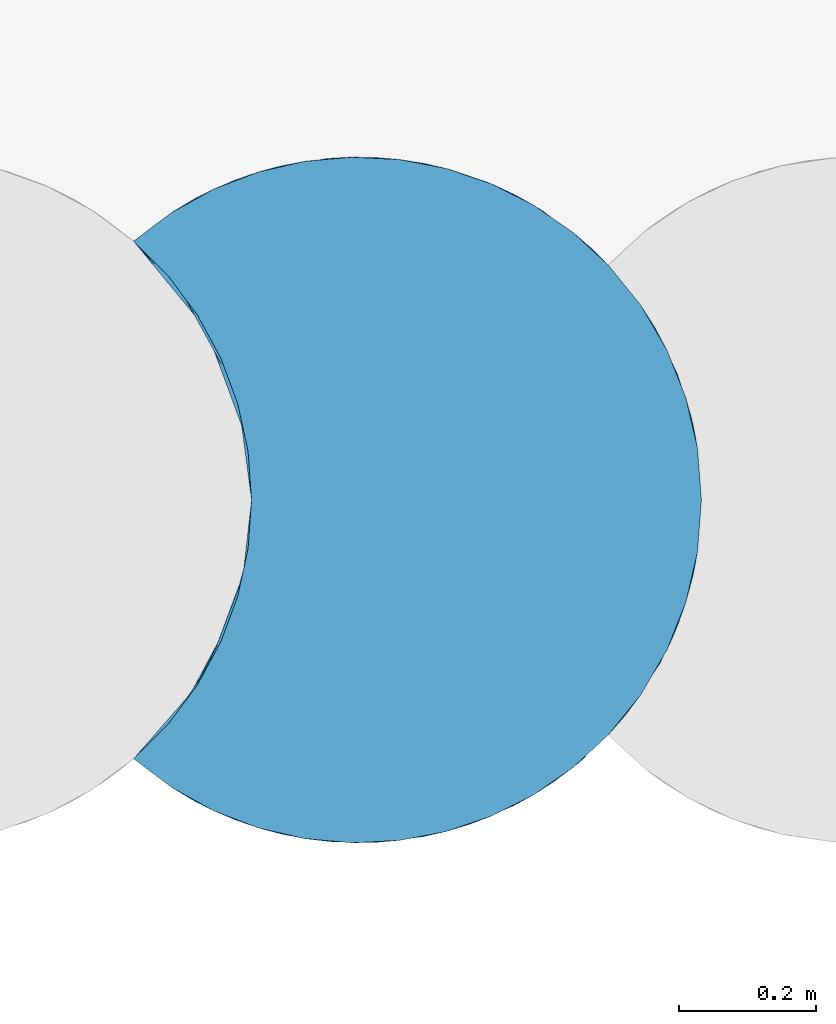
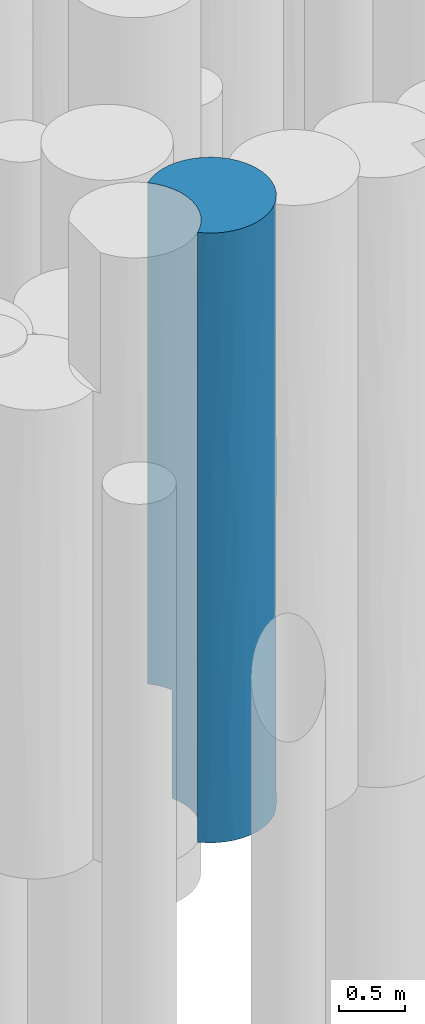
# One storey, part 37 of 104: 1 pile.
"""IFC2X3 building model written with IfcOpenShell, lengths in millimetres."""

from ifc_helpers import new_model, entity, si_unit, converted_unit, derived_unit, direction, frame, origin, place, context, subcontext, project, spatial, faceted_brep, source, transform, mapped, material, element, save


model = new_model("IFC2X3")

# Units and contexts
model_context = context("Model", 3, precision=0.01, world=origin(), true_north=direction((6.12303176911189e-17, 1.0)))
body_context = subcontext(model_context, "Body", "Model", "MODEL_VIEW")
ifc_project = project(units=[si_unit("LENGTHUNIT", "METRE", prefix="MILLI"), si_unit("AREAUNIT", "SQUARE_METRE", prefix="MILLI"), si_unit("VOLUMEUNIT", "CUBIC_METRE"), converted_unit("PLANEANGLEUNIT", "DEGREE", entity("IfcRatioMeasure", 0.0174532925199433), si_unit("PLANEANGLEUNIT", "RADIAN"), dimensions=[0, 0, 0, 0, 0, 0, 0]), si_unit("MASSUNIT", "GRAM", prefix="KILO"), derived_unit("MASSDENSITYUNIT", [(si_unit("MASSUNIT", "GRAM", prefix="KILO"), 1), (si_unit("LENGTHUNIT", "METRE"), -3)]), derived_unit("MOMENTOFINERTIAUNIT", [(si_unit("LENGTHUNIT", "METRE"), 4)]), si_unit("TIMEUNIT", "SECOND"), si_unit("FREQUENCYUNIT", "HERTZ"), si_unit("THERMODYNAMICTEMPERATUREUNIT", "DEGREE_CELSIUS"), derived_unit("THERMALTRANSMITTANCEUNIT", [(si_unit("MASSUNIT", "GRAM", prefix="KILO"), 1), (si_unit("THERMODYNAMICTEMPERATUREUNIT", "KELVIN"), -1), (si_unit("TIMEUNIT", "SECOND"), -3)]), derived_unit("VOLUMETRICFLOWRATEUNIT", [(si_unit("LENGTHUNIT", "METRE"), 3), (si_unit("TIMEUNIT", "SECOND"), -1)]), si_unit("ELECTRICCURRENTUNIT", "AMPERE"), si_unit("ELECTRICVOLTAGEUNIT", "VOLT"), si_unit("POWERUNIT", "WATT"), si_unit("FORCEUNIT", "NEWTON", prefix="KILO"), si_unit("ILLUMINANCEUNIT", "LUX"), si_unit("LUMINOUSFLUXUNIT", "LUMEN"), si_unit("LUMINOUSINTENSITYUNIT", "CANDELA"), derived_unit("USERDEFINED", [(si_unit("MASSUNIT", "GRAM", prefix="KILO"), -1), (si_unit("LENGTHUNIT", "METRE"), -2), (si_unit("TIMEUNIT", "SECOND"), 3), (si_unit("LUMINOUSFLUXUNIT", "LUMEN"), 1)]), derived_unit("LINEARVELOCITYUNIT", [(si_unit("LENGTHUNIT", "METRE"), 1), (si_unit("TIMEUNIT", "SECOND"), -1)]), si_unit("PRESSUREUNIT", "PASCAL"), derived_unit("USERDEFINED", [(si_unit("LENGTHUNIT", "METRE"), -2), (si_unit("MASSUNIT", "GRAM", prefix="KILO"), 1), (si_unit("TIMEUNIT", "SECOND"), -2)]), derived_unit("LINEARFORCEUNIT", [(si_unit("MASSUNIT", "GRAM", prefix="KILO"), 1), (si_unit("LENGTHUNIT", "METRE"), 1), (si_unit("TIMEUNIT", "SECOND"), -2), (si_unit("LENGTHUNIT", "METRE"), -1)]), derived_unit("PLANARFORCEUNIT", [(si_unit("MASSUNIT", "GRAM", prefix="KILO"), 1), (si_unit("LENGTHUNIT", "METRE"), 1), (si_unit("TIMEUNIT", "SECOND"), -2), (si_unit("LENGTHUNIT", "METRE"), -2)])], contexts=[model_context])

# Site, building, storey
site_placement = place(None, origin())
site = spatial("IfcSite", under=ifc_project, at=site_placement, Name="Theater aan de Parade", CompositionType="ELEMENT")
building_placement = place(site_placement, origin())
building = spatial("IfcBuilding", under=site, at=building_placement, Name="Theater aan de Parade", CompositionType="ELEMENT")
storey_placement = place(building_placement, frame((0.0, 0.0, -5520.0)))
storey = spatial("IfcBuildingStorey", under=building, at=storey_placement, Name="-2 kelder", CompositionType="ELEMENT", Elevation=-5520.0)

# Pile
ifc_material = material(Name="00_PBT_MAT_grout")
shared_shape = source(origin(), body_context, "Body", "Brep", [
    faceted_brep([(806.888589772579, 650.465415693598, 0.0), (823.885877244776, 576.843205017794, 0.0), (829.595272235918, 501.49867767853, 0.0), (823.898974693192, 426.240125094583, 0.0), (806.940390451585, 352.698011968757, 0.0), (779.106066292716, 282.546523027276, 0.0), (741.030547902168, 217.384239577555, 0.0), (693.577578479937, 158.691588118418, 0.0), (642.501100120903, 111.511571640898, 0.0), (585.372966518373, 71.8735258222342, 0.0), (523.30217644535, 40.5457134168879, 0.0), (457.48861144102, 18.1320530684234, 0.0), (389.203996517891, 5.06459344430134, 0.0), (319.76749390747, 1.5952722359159, 0.0), (250.5203997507, 7.79110781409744, 0.0), (182.800421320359, 23.5329134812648, 0.0), (117.915971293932, 48.5175814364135, 0.0), (57.1240253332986, 82.2619669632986, 0.0), (1.59527223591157, 124.11823303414, 0.0), (51.8813547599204, 174.543574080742, 0.0), (94.4936693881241, 231.601402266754, 0.0), (128.567798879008, 294.134264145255, 0.0), (153.412528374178, 360.873641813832, 0.0), (168.523867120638, 430.465685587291, 0.0), (173.595272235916, 501.498677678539, 0.0), (170.37816950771, 558.126877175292, 0.0), (160.777664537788, 613.985639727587, 0.0), (144.914978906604, 668.405040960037, 0.0), (122.991728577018, 720.685413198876, 0.0), (778.99172857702, 720.685413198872, 0.0), (778.991728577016, 720.685413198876, 1000.0), (816.80925799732, 613.848720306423, 4566.14867845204), (829.595272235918, 501.498677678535, 5620.0), (829.595272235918, 501.498677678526, 4215.0), (829.595272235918, 501.498677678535, 4058.46227496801), (829.595272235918, 501.498677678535, 1561.53772503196), (814.10559975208, 624.988525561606, 2185.76883565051), (829.595272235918, 501.498677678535, 2810.0), (216.386464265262, 988.51383739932, 3690.72035170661), (316.504141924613, 1001.32727060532, 3348.95730957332), (285.048117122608, 999.510274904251, 2402.35619771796), (761.202892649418, 753.916707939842, 2417.72723235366), (821.511840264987, 591.042466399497, 3683.42124285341), (668.875813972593, 868.770666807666, 2132.86450050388), (693.595272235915, 844.287242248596, 1000.0), (642.513575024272, 891.475774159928, 1000.0), (319.780077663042, 1001.40233035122, 1000.0), (423.587323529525, 992.584713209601, 2132.87573286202), (740.961212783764, 785.71349600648, 1000.0), (585.38624846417, 931.115921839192, 1000.0), (554.896319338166, 947.861129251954, 2486.80900500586), (523.31590086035, 962.445874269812, 1000.0), (457.502381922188, 984.861658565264, 1000.0), (779.106066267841, 720.450832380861, 5620.0), (761.299527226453, 753.751400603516, 4566.14959788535), (741.030547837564, 785.613115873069, 5620.0), (523.302175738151, 962.451642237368, 5620.0), (554.882773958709, 947.867966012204, 4133.26135020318), (462.300574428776, 983.566414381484, 4596.8426305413), (668.864685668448, 868.780946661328, 4487.1272982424), (741.040032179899, 785.599380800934, 3576.82735566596), (794.348730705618, 685.901017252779, 3700.57090034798), (57.12402508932, 920.735388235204, 5620.0), (1.5952722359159, 878.879122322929, 4058.44853976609), (1.5952722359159, 878.879122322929, 4123.07562193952), (1.5952722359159, 878.879122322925, 5620.0), (823.898974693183, 576.757230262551, 5620.0), (806.940390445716, 650.299343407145, 5620.0), (817.938948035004, 608.832056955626, 1100.92237056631), (517.81367028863, 964.719828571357, 3310.00347986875), (423.587323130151, 992.584713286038, 3309.99094458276), (642.501099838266, 891.48578394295, 5620.0), (693.585464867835, 844.297656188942, 5620.0), (149.923382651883, 968.101305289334, 4575.90129397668), (251.666473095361, 995.388444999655, 4602.83628719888), (354.546116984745, 1000.87574497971, 4398.60332347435), (585.372965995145, 931.123829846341, 5620.0), (668.875813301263, 868.770667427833, 3309.99090313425), (389.217390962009, 997.931153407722, 1000.0), (1.59527223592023, 878.879122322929, 2496.91054919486), (86.9393783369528, 938.669258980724, 2009.21138453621), (1.5952722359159, 878.879122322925, 1000.0), (182.810137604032, 979.467425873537, 1000.0), (209.186994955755, 986.784002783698, 1857.08712870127), (250.531745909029, 995.208064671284, 1000.0), (96.5429972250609, 943.863501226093, 3513.07262957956), (169.508319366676, 975.178070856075, 2665.47601767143), (117.923781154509, 954.483423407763, 1000.0), (182.800421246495, 979.464441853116, 5620.0), (117.915971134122, 954.479773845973, 5620.0), (597.672478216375, 923.558639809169, 3430.90077066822), (389.203995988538, 997.932761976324, 5620.0), (457.488610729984, 984.865302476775, 5620.0), (319.767493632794, 1001.40208311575, 5620.0), (250.52039965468, 995.206247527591, 5620.0), (1.59527223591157, 878.879122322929, 2561.53851753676), (57.1295478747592, 920.738977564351, 1000.0), (829.595272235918, 501.49867767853, 1405.0), (216.386464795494, 14.4835178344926, 957.972406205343), (821.841251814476, 413.783823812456, 1876.21790916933), (805.369826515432, 347.750267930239, 2810.0), (786.755300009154, 299.002482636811, 864.608175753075), (354.546117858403, 2.12161042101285, 1459.54981796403), (94.8376739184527, 60.0364822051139, 3458.80239353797), (149.923382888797, 34.8960499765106, 4524.19633613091), (1.5952722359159, 124.11823303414, 4058.45942228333), (252.582616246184, 7.46522656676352, 4496.66791955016), (216.3864647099, 14.4835178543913, 3578.58073682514), (693.585464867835, 158.699699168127, 5620.0), (642.501099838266, 111.51157141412, 5620.0), (614.626903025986, 90.6982766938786, 4689.73771000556), (490.785446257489, 28.1935669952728, 930.255974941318), (57.1240250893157, 82.261967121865, 5620.0), (117.915971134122, 48.5175815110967, 5620.0), (718.416739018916, 187.145584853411, 4236.42992826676), (718.416739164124, 187.145585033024, 2810.0), (769.288387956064, 263.444137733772, 3159.96915485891), (823.898974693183, 426.240125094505, 5620.0), (816.809258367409, 389.148636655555, 4652.09826972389), (149.923383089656, 34.8960498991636, 1739.70465700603), (255.372675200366, 7.03835966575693, 1908.67919260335), (490.785445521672, 28.19356674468, 4689.74402606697), (554.882774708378, 55.1293897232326, 3942.23425345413), (86.9327306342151, 64.3317863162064, 957.975719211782), (354.546117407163, 2.12161039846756, 4223.84690636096), (741.030547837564, 217.384239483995, 5620.0), (389.20399598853, 5.0645933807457, 5620.0), (319.767493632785, 1.59527224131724, 5620.0), (182.80042124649, 23.5329135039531, 5620.0), (794.348732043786, 317.096341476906, 1726.48989222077), (718.416739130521, 187.145584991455, 1383.57007163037), (250.520399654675, 7.79110782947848, 5620.0), (821.841251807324, 413.78382377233, 3743.78209041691), (614.62690344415, 90.6982769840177, 930.262290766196), (554.882775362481, 55.1293900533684, 1677.76574942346), (455.794794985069, 17.6870609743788, 1864.65322063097), (293.282404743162, 2.8190453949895, 2860.06178627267), (455.794794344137, 17.6870608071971, 3755.34678018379), (806.940390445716, 352.698011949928, 5620.0), (779.106066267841, 282.546522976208, 5620.0), (786.755300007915, 299.002482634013, 4755.39182452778), (816.809258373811, 389.14863668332, 967.90173032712), (187.436578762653, 22.1335706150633, 2643.66817090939), (523.302175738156, 40.5457131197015, 5620.0), (457.488610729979, 18.1320528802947, 5620.0), (585.372965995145, 71.8735255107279, 5620.0), (92.2293345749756, 61.433442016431, 2500.30118478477), (423.573703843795, 10.4100355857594, 2810.0), (582.073600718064, 69.9263272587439, 2810.0), (794.348732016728, 317.096341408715, 3893.51010812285), (1.59527223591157, 124.118233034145, 5620.0), (648.52269262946, 116.42037327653, 3707.96881269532), (648.522692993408, 116.420373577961, 1912.03118429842), (1.5952722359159, 124.118233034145, 1561.54057771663), (1.5952722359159, 124.11823303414, 780.768853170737), (655.557609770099, 122.356811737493, 2741.17466493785), (1.5952722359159, 124.11823303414, 2496.9188445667), (51.8813547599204, 828.453781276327, 5620.0), (94.4936693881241, 771.395953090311, 5620.0), (128.567798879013, 708.86309121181, 5620.0), (153.412528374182, 642.123713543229, 5620.0), (168.523867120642, 572.53166976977, 5620.0), (173.595272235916, 501.498677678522, 5620.0), (168.523867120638, 430.465685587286, 5620.0), (153.412528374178, 360.873641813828, 5620.0), (128.567798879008, 294.13426414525, 5620.0), (94.4936693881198, 231.60140226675, 5620.0), (51.8813547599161, 174.543574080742, 5620.0), (156.154084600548, 632.407014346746, 2431.25651804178), (107.329582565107, 750.244628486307, 1937.80177005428), (161.97383581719, 608.67320186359, 1095.37383428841), (173.59527223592, 501.498677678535, 1561.53772532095), (74.2046288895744, 800.6844784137, 4841.1999402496), (142.179864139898, 675.936288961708, 4186.50091262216), (84.8528302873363, 785.87030239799, 4013.15898234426), (107.329581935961, 750.244629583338, 2924.71127620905), (89.7259563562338, 778.690405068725, 1000.0), (122.991728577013, 720.685413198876, 1000.0), (164.826209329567, 594.730466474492, 3434.23111953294), (173.595272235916, 501.498677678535, 2810.0), (173.595272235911, 501.498677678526, 3123.07541190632), (173.595272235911, 501.498677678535, 4058.46227467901), (49.0177855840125, 831.737888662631, 1000.0), (166.455429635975, 585.694076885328, 4650.54623763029), (173.59527223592, 501.49867767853, 4839.23114702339), (112.645449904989, 262.260425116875, 1019.80231170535), (162.208751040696, 395.400287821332, 1019.80231162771), (79.3941575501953, 209.390367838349, 2029.23114697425), (142.179865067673, 327.061068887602, 4551.7278429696), (166.492263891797, 417.519182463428, 4448.84672053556), (60.5795974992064, 184.886719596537, 1171.15327990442), (92.2882909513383, 228.192702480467, 4599.8706272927), (112.645449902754, 262.260425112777, 3646.45344893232), (91.7490268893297, 227.368348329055, 2868.62143366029), (135.51654937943, 310.11233092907, 2815.83224049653), (58.7917918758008, 182.714046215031, 3592.56873454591), (142.179865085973, 327.061068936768, 1867.33584008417), (164.573980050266, 406.947588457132, 2567.46279294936), (160.98932478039, 389.932385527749, 3590.76885292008)], [[[0, 1, 2, 3, 4, 5, 6, 7, 8, 9, 10, 11, 12, 13, 14, 15, 16, 17, 18, 19, 20, 21, 22, 23, 24, 25, 26, 27, 28, 29]], [[30, 0, 29]], [[31, 32, 33, 34]], [[35, 36, 37]], [[38, 39, 40]], [[41, 36, 30]], [[42, 31, 34]], [[43, 44, 45]], [[46, 40, 47]], [[41, 48, 43]], [[49, 50, 43]], [[47, 51, 52]], [[53, 54, 55]], [[56, 57, 58]], [[48, 41, 30]], [[59, 54, 60]], [[31, 42, 61]], [[62, 63, 64, 65]], [[66, 31, 67]], [[0, 30, 68]], [[69, 70, 58]], [[54, 67, 31]], [[61, 42, 36]], [[67, 54, 53]], [[71, 72, 59]], [[38, 73, 74]], [[39, 75, 70]], [[57, 76, 59]], [[39, 47, 40]], [[36, 68, 30]], [[60, 41, 77]], [[50, 51, 47]], [[2, 1, 68]], [[47, 52, 78]], [[59, 76, 71]], [[51, 50, 49]], [[79, 80, 81]], [[82, 83, 84]], [[73, 85, 63]], [[86, 83, 80]], [[61, 54, 31]], [[80, 83, 87]], [[88, 73, 89]], [[90, 50, 69]], [[85, 38, 86]], [[84, 83, 46]], [[90, 43, 50]], [[43, 48, 44]], [[62, 89, 73]], [[41, 43, 77]], [[76, 57, 56]], [[59, 77, 90]], [[58, 75, 91]], [[91, 92, 58]], [[54, 72, 55]], [[47, 70, 69]], [[91, 75, 93]], [[86, 80, 85]], [[93, 75, 74]], [[60, 54, 61]], [[62, 73, 63]], [[74, 75, 39]], [[85, 73, 38]], [[94, 74, 88]], [[47, 78, 46]], [[72, 54, 59]], [[58, 70, 75]], [[32, 31, 66]], [[43, 45, 49]], [[86, 38, 40]], [[85, 79, 95, 63]], [[36, 35, 68]], [[61, 36, 41]], [[41, 60, 61]], [[59, 60, 77]], [[83, 86, 40]], [[87, 96, 80]], [[81, 80, 96]], [[85, 80, 79]], [[88, 74, 73]], [[93, 74, 94]], [[68, 35, 97, 2]], [[0, 68, 1]], [[34, 37, 42]], [[36, 42, 37]], [[83, 40, 46]], [[83, 82, 87]], [[90, 69, 57]], [[47, 69, 50]], [[59, 90, 57]], [[90, 77, 43]], [[39, 38, 74]], [[47, 39, 70]], [[56, 58, 92]], [[58, 57, 69]], [[15, 98, 16]], [[99, 37, 100]], [[6, 5, 101]], [[13, 98, 14]], [[13, 102, 98]], [[103, 104, 105]], [[106, 104, 107]], [[108, 109, 110]], [[12, 11, 111]], [[112, 104, 113]], [[12, 102, 13]], [[114, 115, 116]], [[117, 118, 32]], [[10, 111, 11]], [[119, 98, 120]], [[9, 111, 10]], [[110, 121, 122]], [[123, 17, 16]], [[103, 107, 104]], [[107, 124, 106]], [[108, 114, 125]], [[112, 105, 104]], [[126, 127, 124]], [[104, 106, 128]], [[123, 18, 17]], [[129, 115, 130]], [[106, 127, 131]], [[132, 33, 118]], [[121, 126, 124]], [[101, 5, 4]], [[133, 111, 9]], [[120, 98, 102]], [[134, 135, 111]], [[136, 124, 107]], [[111, 133, 134]], [[16, 98, 123]], [[130, 7, 6]], [[137, 122, 121]], [[138, 139, 140]], [[97, 141, 2]], [[32, 118, 33]], [[141, 4, 3]], [[136, 107, 142]], [[101, 141, 129]], [[37, 132, 100]], [[123, 98, 119]], [[101, 4, 141]], [[121, 143, 144]], [[133, 7, 130]], [[133, 9, 8]], [[143, 121, 145]], [[121, 110, 145]], [[142, 103, 146]], [[147, 135, 148]], [[109, 145, 110]], [[149, 118, 140]], [[125, 114, 140]], [[116, 129, 100]], [[112, 150, 105]], [[118, 138, 140]], [[110, 151, 114]], [[104, 128, 113]], [[134, 152, 148]], [[138, 118, 117]], [[123, 146, 153]], [[133, 152, 134]], [[98, 15, 14]], [[134, 148, 135]], [[12, 111, 102]], [[7, 133, 8]], [[152, 133, 130]], [[126, 121, 144]], [[137, 147, 148]], [[151, 110, 122]], [[108, 110, 114]], [[146, 123, 119]], [[123, 153, 154, 18]], [[132, 118, 149]], [[2, 141, 3]], [[99, 141, 97]], [[130, 115, 152]], [[114, 151, 115]], [[155, 148, 152]], [[148, 122, 137]], [[122, 148, 151]], [[151, 148, 155]], [[105, 156, 103]], [[142, 146, 119]], [[136, 102, 147]], [[142, 119, 120]], [[147, 102, 135]], [[102, 111, 135]], [[121, 124, 137]], [[124, 147, 137]], [[136, 142, 120]], [[103, 142, 107]], [[102, 136, 120]], [[124, 136, 147]], [[103, 156, 146]], [[153, 146, 156]], [[100, 132, 149]], [[132, 37, 34, 33]], [[99, 97, 35, 37]], [[116, 100, 149]], [[129, 141, 99]], [[100, 129, 99]], [[127, 106, 124]], [[128, 106, 131]], [[125, 140, 139]], [[114, 149, 140]], [[129, 130, 101]], [[6, 101, 130]], [[114, 116, 149]], [[129, 116, 115]], [[152, 115, 155]], [[151, 155, 115]], [[56, 92, 91, 93, 94, 88, 89, 62, 65, 157, 158, 159, 160, 161, 162, 163, 164, 165, 166, 167, 150, 112, 113, 128, 131, 127, 126, 144, 143, 145, 109, 108, 125, 139, 138, 117, 32, 66, 67, 53, 55, 72, 71, 76]], [[168, 169, 170]], [[170, 171, 168]], [[170, 26, 25]], [[172, 173, 159]], [[174, 64, 63, 95]], [[24, 170, 25]], [[172, 174, 173]], [[174, 175, 173]], [[172, 157, 65]], [[176, 177, 169]], [[178, 179, 180, 181]], [[170, 27, 26]], [[177, 27, 170]], [[168, 175, 169]], [[182, 169, 95]], [[183, 181, 184, 162]], [[95, 169, 175]], [[182, 176, 169]], [[173, 178, 183]], [[172, 158, 157]], [[178, 181, 183]], [[182, 95, 79, 81]], [[179, 168, 171]], [[173, 160, 159]], [[161, 160, 183]], [[168, 179, 178]], [[168, 178, 175]], [[27, 177, 28]], [[169, 177, 170]], [[173, 175, 178]], [[24, 171, 170]], [[175, 174, 95]], [[64, 172, 65]], [[159, 158, 172]], [[174, 172, 64]], [[173, 183, 160]], [[161, 183, 162]], [[185, 186, 22, 21]], [[156, 187, 153]], [[188, 164, 189]], [[185, 21, 20]], [[190, 20, 19]], [[154, 19, 18]], [[167, 105, 150]], [[22, 186, 23]], [[167, 191, 105]], [[191, 188, 192]], [[166, 165, 191]], [[153, 190, 154]], [[185, 20, 190]], [[188, 191, 165]], [[187, 193, 194]], [[193, 156, 195]], [[162, 184, 163]], [[186, 185, 196]], [[181, 189, 184]], [[189, 164, 163]], [[24, 186, 171]], [[180, 197, 198]], [[180, 198, 181]], [[197, 180, 179, 171]], [[164, 188, 165]], [[23, 186, 24]], [[171, 186, 197]], [[187, 196, 185]], [[194, 196, 187]], [[198, 192, 188]], [[196, 194, 197]], [[166, 191, 167]], [[105, 191, 195]], [[192, 198, 194]], [[186, 196, 197]], [[197, 194, 198]], [[193, 192, 194]], [[192, 193, 195]], [[193, 187, 156]], [[192, 195, 191]], [[105, 195, 156]], [[181, 198, 189]], [[184, 189, 163]], [[188, 189, 198]], [[153, 187, 190]], [[154, 190, 19]], [[185, 190, 187]], [[84, 46, 78, 52, 51, 49, 45, 44, 48, 30, 177, 176, 182, 81, 96, 87, 82]], [[30, 29, 28, 177]]]),
])
pile_placement = place(storey_placement, frame((35980.2628578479, 37979.314586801, -3840.0)))
element("IfcPile", 1, at=pile_placement, inside=storey, material=ifc_material, Name="17_PBT_SFO_grondkering_rond:Ø1000 (grondkering)", ObjectType="17_PBT_SFO_grondkering_rond:Ø1000 (grondkering)", PredefinedType="NOTDEFINED", context=body_context, shape_type="MappedRepresentation", body=[
    mapped(shared_shape, transform((0.0, 0.0, 0.0), scale=1.0)),
])

save(model, "model.ifc")
